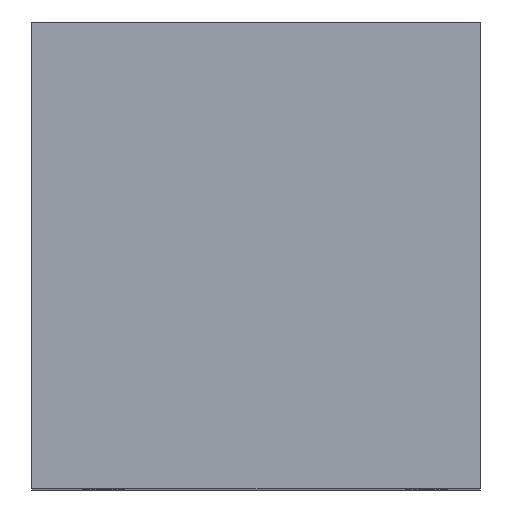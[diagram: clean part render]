
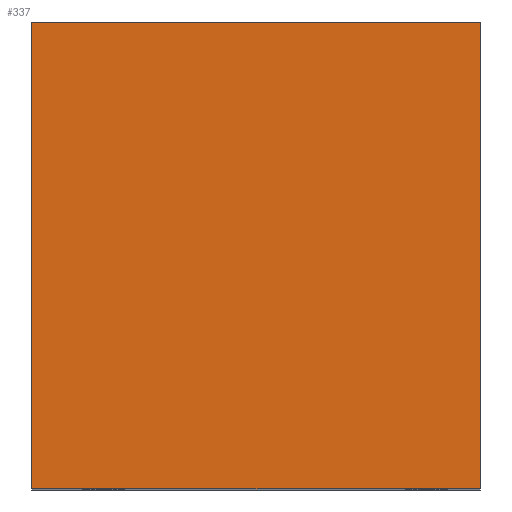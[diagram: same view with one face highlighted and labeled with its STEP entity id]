
A CAD part, top view. The second image highlights one B-rep face of the part: STEP entity #337.
In plain terms, the highlighted planar face has unit normal (0, 0, 1).
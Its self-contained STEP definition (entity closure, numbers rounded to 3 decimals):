
#24 = VERTEX_POINT('',#25);
#25 = CARTESIAN_POINT('',(-45.,-26.,-125.));
#32 = PLANE('',#33);
#33 = AXIS2_PLACEMENT_3D('',#34,#35,#36);
#34 = CARTESIAN_POINT('',(-45.,-26.,-205.));
#35 = DIRECTION('',(1.,0.,-0.));
#36 = DIRECTION('',(0.,0.,1.));
#44 = PLANE('',#45);
#45 = AXIS2_PLACEMENT_3D('',#46,#47,#48);
#46 = CARTESIAN_POINT('',(-45.,-26.,-205.));
#47 = DIRECTION('',(-0.,1.,0.));
#48 = DIRECTION('',(0.,0.,1.));
#85 = VERTEX_POINT('',#86);
#86 = CARTESIAN_POINT('',(-45.,26.,-125.));
#100 = PLANE('',#101);
#101 = AXIS2_PLACEMENT_3D('',#102,#103,#104);
#102 = CARTESIAN_POINT('',(-45.,26.,-205.));
#103 = DIRECTION('',(-0.,1.,0.));
#104 = DIRECTION('',(0.,0.,1.));
#112 = EDGE_CURVE('',#24,#85,#113,.T.);
#113 = SURFACE_CURVE('',#114,(#118,#125),.PCURVE_S1.);
#114 = LINE('',#115,#116);
#115 = CARTESIAN_POINT('',(-45.,-26.,-125.));
#116 = VECTOR('',#117,1.);
#117 = DIRECTION('',(-0.,1.,0.));
#118 = PCURVE('',#32,#119);
#119 = DEFINITIONAL_REPRESENTATION('',(#120),#124);
#120 = LINE('',#121,#122);
#121 = CARTESIAN_POINT('',(80.,0.));
#122 = VECTOR('',#123,1.);
#123 = DIRECTION('',(0.,-1.));
#124 = ( GEOMETRIC_REPRESENTATION_CONTEXT(2) 
PARAMETRIC_REPRESENTATION_CONTEXT() REPRESENTATION_CONTEXT('2D SPACE',''
  ) );
#125 = PCURVE('',#126,#131);
#126 = PLANE('',#127);
#127 = AXIS2_PLACEMENT_3D('',#128,#129,#130);
#128 = CARTESIAN_POINT('',(-45.,-26.,-125.));
#129 = DIRECTION('',(0.,0.,1.));
#130 = DIRECTION('',(1.,0.,-0.));
#131 = DEFINITIONAL_REPRESENTATION('',(#132),#136);
#132 = LINE('',#133,#134);
#133 = CARTESIAN_POINT('',(0.,0.));
#134 = VECTOR('',#135,1.);
#135 = DIRECTION('',(0.,1.));
#136 = ( GEOMETRIC_REPRESENTATION_CONTEXT(2) 
PARAMETRIC_REPRESENTATION_CONTEXT() REPRESENTATION_CONTEXT('2D SPACE',''
  ) );
#165 = EDGE_CURVE('',#24,#166,#168,.T.);
#166 = VERTEX_POINT('',#167);
#167 = CARTESIAN_POINT('',(5.,-26.,-125.));
#168 = SURFACE_CURVE('',#169,(#173,#180),.PCURVE_S1.);
#169 = LINE('',#170,#171);
#170 = CARTESIAN_POINT('',(-45.,-26.,-125.));
#171 = VECTOR('',#172,1.);
#172 = DIRECTION('',(1.,0.,-0.));
#173 = PCURVE('',#44,#174);
#174 = DEFINITIONAL_REPRESENTATION('',(#175),#179);
#175 = LINE('',#176,#177);
#176 = CARTESIAN_POINT('',(80.,0.));
#177 = VECTOR('',#178,1.);
#178 = DIRECTION('',(0.,1.));
#179 = ( GEOMETRIC_REPRESENTATION_CONTEXT(2) 
PARAMETRIC_REPRESENTATION_CONTEXT() REPRESENTATION_CONTEXT('2D SPACE',''
  ) );
#180 = PCURVE('',#126,#181);
#181 = DEFINITIONAL_REPRESENTATION('',(#182),#186);
#182 = LINE('',#183,#184);
#183 = CARTESIAN_POINT('',(0.,0.));
#184 = VECTOR('',#185,1.);
#185 = DIRECTION('',(1.,0.));
#186 = ( GEOMETRIC_REPRESENTATION_CONTEXT(2) 
PARAMETRIC_REPRESENTATION_CONTEXT() REPRESENTATION_CONTEXT('2D SPACE',''
  ) );
#202 = PLANE('',#203);
#203 = AXIS2_PLACEMENT_3D('',#204,#205,#206);
#204 = CARTESIAN_POINT('',(5.,-26.,-205.));
#205 = DIRECTION('',(1.,0.,-0.));
#206 = DIRECTION('',(0.,0.,1.));
#337 = ADVANCED_FACE('',(#338),#126,.T.);
#338 = FACE_BOUND('',#339,.T.);
#339 = EDGE_LOOP('',(#340,#341,#342,#365));
#340 = ORIENTED_EDGE('',*,*,#112,.F.);
#341 = ORIENTED_EDGE('',*,*,#165,.T.);
#342 = ORIENTED_EDGE('',*,*,#343,.T.);
#343 = EDGE_CURVE('',#166,#344,#346,.T.);
#344 = VERTEX_POINT('',#345);
#345 = CARTESIAN_POINT('',(5.,26.,-125.));
#346 = SURFACE_CURVE('',#347,(#351,#358),.PCURVE_S1.);
#347 = LINE('',#348,#349);
#348 = CARTESIAN_POINT('',(5.,-26.,-125.));
#349 = VECTOR('',#350,1.);
#350 = DIRECTION('',(-0.,1.,0.));
#351 = PCURVE('',#126,#352);
#352 = DEFINITIONAL_REPRESENTATION('',(#353),#357);
#353 = LINE('',#354,#355);
#354 = CARTESIAN_POINT('',(50.,0.));
#355 = VECTOR('',#356,1.);
#356 = DIRECTION('',(0.,1.));
#357 = ( GEOMETRIC_REPRESENTATION_CONTEXT(2) 
PARAMETRIC_REPRESENTATION_CONTEXT() REPRESENTATION_CONTEXT('2D SPACE',''
  ) );
#358 = PCURVE('',#202,#359);
#359 = DEFINITIONAL_REPRESENTATION('',(#360),#364);
#360 = LINE('',#361,#362);
#361 = CARTESIAN_POINT('',(80.,0.));
#362 = VECTOR('',#363,1.);
#363 = DIRECTION('',(0.,-1.));
#364 = ( GEOMETRIC_REPRESENTATION_CONTEXT(2) 
PARAMETRIC_REPRESENTATION_CONTEXT() REPRESENTATION_CONTEXT('2D SPACE',''
  ) );
#365 = ORIENTED_EDGE('',*,*,#366,.F.);
#366 = EDGE_CURVE('',#85,#344,#367,.T.);
#367 = SURFACE_CURVE('',#368,(#372,#379),.PCURVE_S1.);
#368 = LINE('',#369,#370);
#369 = CARTESIAN_POINT('',(-45.,26.,-125.));
#370 = VECTOR('',#371,1.);
#371 = DIRECTION('',(1.,0.,-0.));
#372 = PCURVE('',#126,#373);
#373 = DEFINITIONAL_REPRESENTATION('',(#374),#378);
#374 = LINE('',#375,#376);
#375 = CARTESIAN_POINT('',(0.,52.));
#376 = VECTOR('',#377,1.);
#377 = DIRECTION('',(1.,0.));
#378 = ( GEOMETRIC_REPRESENTATION_CONTEXT(2) 
PARAMETRIC_REPRESENTATION_CONTEXT() REPRESENTATION_CONTEXT('2D SPACE',''
  ) );
#379 = PCURVE('',#100,#380);
#380 = DEFINITIONAL_REPRESENTATION('',(#381),#385);
#381 = LINE('',#382,#383);
#382 = CARTESIAN_POINT('',(80.,0.));
#383 = VECTOR('',#384,1.);
#384 = DIRECTION('',(0.,1.));
#385 = ( GEOMETRIC_REPRESENTATION_CONTEXT(2) 
PARAMETRIC_REPRESENTATION_CONTEXT() REPRESENTATION_CONTEXT('2D SPACE',''
  ) );
